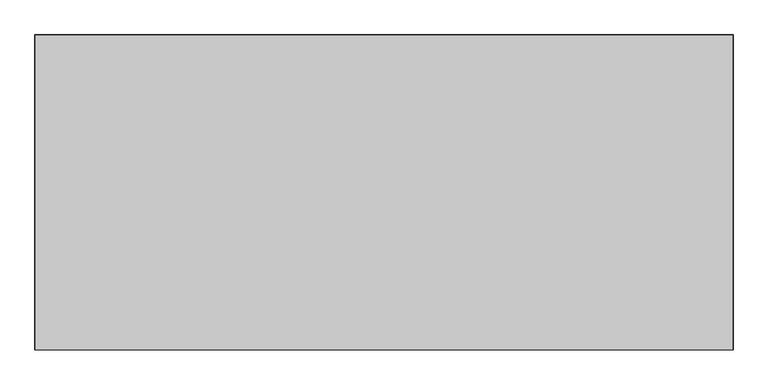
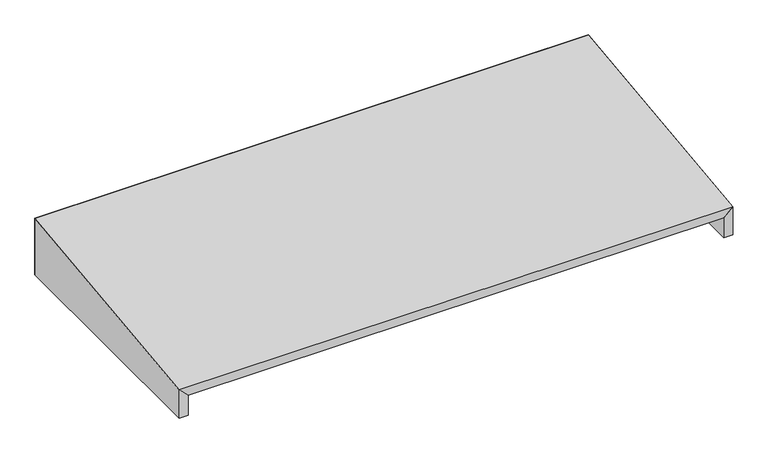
"""IFC4 building model written with IfcOpenShell, lengths in millimetres: proxy geometry, FOUNDATION^ADMIN 2_42x93 ANGLED FRONT TRANSACTION-PARTS SOLID."""

from ifc_helpers import new_model, si_unit, frame, origin, place, context, project, spatial, polyline, outline, extrude, faceted_brep, source, transform, mapped, element, save


def generic_models_44093d03(model_context):
    return source(origin(), model_context, "Body", "SolidModel", [
        faceted_brep([(-2324.1, -709.6698721, 69.2594732), (-2286.0, -709.6698721, 30.8904381), (-2286.0, 319.0301279, 153.3551868), (-2324.1, 357.1301279, 196.2599534), (-2286.0, 319.0301279, -57.7400466), (-2324.1, 357.1301279, -57.7400466), (-2286.0, -709.6698721, -57.7400466), (-2324.1, -709.6698721, -57.7400466)], [[[0, 1, 2, 3]], [[3, 2, 4, 5]], [[2, 1, 6, 4]], [[1, 0, 7, 6]], [[5, 4, 6, 7]], [[5, 7, 0, 3]]]),
        faceted_brep([(38.1, 357.1301279, 196.2599534), (0.0, 319.0301279, 153.3551868), (0.0, 319.0301279, -57.7400466), (38.1, 357.1301279, -57.7400466), (-2286.0, 319.0301279, 153.3551868), (-2286.0, 319.0301279, -57.7400466), (-2324.1, 357.1301279, 196.2599534), (-2324.1, 357.1301279, -57.7400466)], [[[0, 1, 2, 3]], [[1, 4, 5, 2]], [[4, 6, 7, 5]], [[6, 0, 3, 7]], [[3, 2, 5, 7]], [[4, 1, 0, 6]]]),
        faceted_brep([(0.0, 319.0301279, 153.3551868), (0.0, -709.6698721, 30.8904381), (-2286.0, -709.6698721, 30.8904381), (-2286.0, 319.0301279, 153.3551868), (38.1, -709.6698721, 69.2594732), (-2324.1, -709.6698721, 69.2594732), (38.1, 357.1301279, 196.2599534), (-2324.1, 357.1301279, 196.2599534)], [[[0, 1, 2, 3]], [[2, 1, 4, 5]], [[1, 0, 6, 4]], [[7, 5, 4, 6]], [[3, 7, 6, 0]], [[2, 5, 7, 3]]]),
        faceted_brep([(0.0, -709.6698721, 30.8904381), (38.1, -709.6698721, 69.2594732), (38.1, 357.1301279, 196.2599534), (0.0, 319.0301279, 153.3551868), (0.0, 319.0301279, -57.7400466), (0.0, -709.6698721, -57.7400466), (38.1, 357.1301279, -57.7400466), (38.1, -709.6698721, -57.7400466)], [[[0, 1, 2, 3]], [[0, 3, 4, 5]], [[3, 2, 6, 4]], [[4, 6, 7, 5]], [[1, 0, 5, 7]], [[1, 7, 6, 2]]]),
        extrude(outline(polyline([(0.0, 319.0301279), (0.0, -709.6698721), (-2286.0, -709.6698721), (-2286.0, 319.0301279), (0.0, 319.0301279)])), frame((0.0, 0.0, 43.8599534), z_axis=(0.0, 0.0, 1.0), x_axis=(1.0, 0.0, 0.0)), (0.0, 0.0, 1.0), 19.05),
    ])


if __name__ == "__main__":
    model = new_model("IFC4")
    model_context = context("Model", 3, world=origin())
    ifc_project = project(units=[si_unit("LENGTHUNIT", "METRE", prefix="MILLI")], contexts=[model_context])
    site = spatial("IfcSite", under=ifc_project)
    building = spatial("IfcBuilding", under=site)
    placement = place(None, origin())
    generic_models_shape = generic_models_44093d03(model_context)
    element("IfcBuildingElementProxy", 1, Name="FOUNDATION^ADMIN 2_42x93 ANGLED FRONT TRANSACTION-PARTS SOLID", ObjectType="FOUNDATION^ADMIN 2_42x93 ANGLED FRONT TRANSACTION-PARTS SOLID", at=placement, inside=building, context=model_context, shape_type="MappedRepresentation", body=[
        mapped(generic_models_shape, transform((0.0, 0.0, 0.0), x_axis=(1.0, 0.0, 0.0), y_axis=(0.0, 1.0, 0.0), z_axis=(0.0, 0.0, 1.0))),
    ])
    save(model, "model.ifc")
